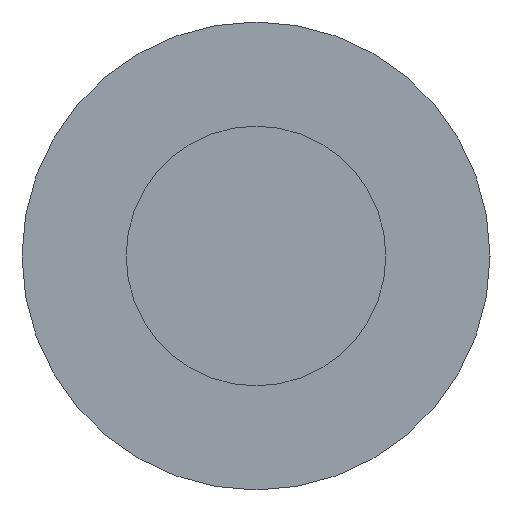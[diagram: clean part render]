
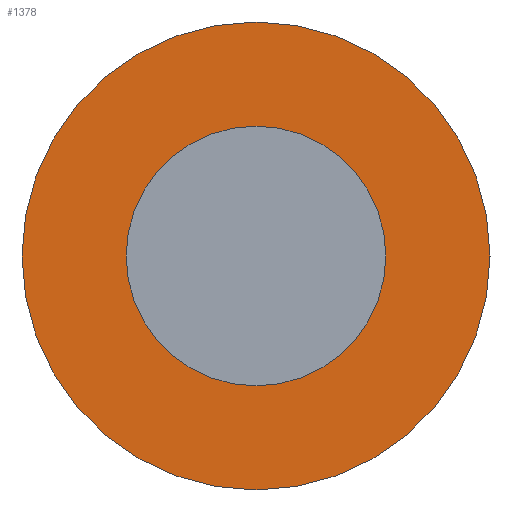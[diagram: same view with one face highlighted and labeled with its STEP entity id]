
A CAD part, left-side view. The second image highlights one B-rep face of the part: STEP entity #1378.
In plain terms, the highlighted planar face has unit normal (-1, 0, 0).
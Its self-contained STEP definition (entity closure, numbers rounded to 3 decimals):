
#1378 = ADVANCED_FACE( '', ( #3321, #3322 ), #3323, .F. );
#3321 = FACE_BOUND( '', #5622, .T. );
#3322 = FACE_OUTER_BOUND( '', #5623, .T. );
#3323 = PLANE( '', #5624 );
#5622 = EDGE_LOOP( '', ( #8697 ) );
#5623 = EDGE_LOOP( '', ( #8698 ) );
#5624 = AXIS2_PLACEMENT_3D( '', #8699, #8700, #8701 );
#8697 = ORIENTED_EDGE( '', *, *, #10522, .F. );
#8698 = ORIENTED_EDGE( '', *, *, #10306, .T. );
#8699 = CARTESIAN_POINT( '', ( -125., 0., 20. ) );
#8700 = DIRECTION( '', ( 1., 0., 0. ) );
#8701 = DIRECTION( '', ( 0., 0., -1. ) );
#10306 = EDGE_CURVE( '', #11770, #11770, #11771, .T. );
#10522 = EDGE_CURVE( '', #12102, #12102, #12103, .T. );
#11770 = VERTEX_POINT( '', #13490 );
#11771 = CIRCLE( '', #13491, 20. );
#12102 = VERTEX_POINT( '', #13822 );
#12103 = CIRCLE( '', #13823, 11.1 );
#13490 = CARTESIAN_POINT( '', ( -125., 0., 20. ) );
#13491 = AXIS2_PLACEMENT_3D( '', #15338, #15339, #15340 );
#13822 = CARTESIAN_POINT( '', ( -125., 0., 11.1 ) );
#13823 = AXIS2_PLACEMENT_3D( '', #15686, #15687, #15688 );
#15338 = CARTESIAN_POINT( '', ( -125., 0., 0. ) );
#15339 = DIRECTION( '', ( -1., 0., 0. ) );
#15340 = DIRECTION( '', ( 0., 0., 1. ) );
#15686 = CARTESIAN_POINT( '', ( -125., 0., 0. ) );
#15687 = DIRECTION( '', ( -1., 0., 0. ) );
#15688 = DIRECTION( '', ( 0., 0., 1. ) );
